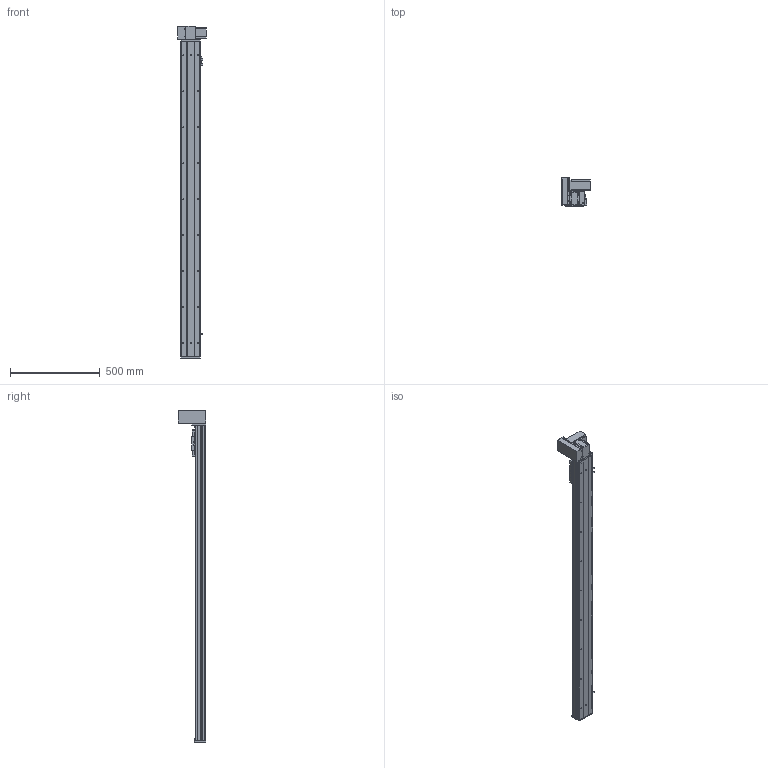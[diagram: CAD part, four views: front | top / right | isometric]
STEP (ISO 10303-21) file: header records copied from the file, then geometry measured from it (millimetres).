
FILE_DESCRIPTION (( 'STEP AP203' ), '1' );
FILE_NAME ('Y10CB-D90-S1500-UL-P400W.STEP', '2020-02-16T07:56:59', ( '微软用户' ), ( '微软中国' ), 'SwSTEP 2.0', 'SolidWorks 2017', '' );
FILE_SCHEMA (( 'CONFIG_CONTROL_DESIGN' ));
Length unit declared in the file: millimetre
Products named in the file (18): 0CB-雄赽釱---; Y10CB-D90-S1500-UL-P400W; Y10C---詩湍揤啣; 0Cb-俋欶---; 10CB9-掛极; Y10B-々湍喘謫眊楊擘啣--; 10CB-耜裔; 0B-萇儂楊擘啣; Y135C-陔俋离換覜結え-; san松下电机400不带刹车----; Y100-135俋离換覜ん--; 0B-源倛裔啣; Y10B-耜蚾蟀諉啣----; 0B-埴倛裔啣; 00B-俋欶BM--; 10CB-詩湍-; Y10B--々湍喘謫眊--666; Y10CB- 掛极耜裔啣-毀---
Assembly tree (21 placements, depth 2):
  Y10CB-D90-S1500-UL-P400W
    0CB-雄赽釱---
    0Cb-俋欶---
    Y10B-々湍喘謫眊楊擘啣--
    0B-萇儂楊擘啣
    san松下电机400不带刹车----
    0B-源倛裔啣
    0B-埴倛裔啣
    10CB-詩湍-
    Y10CB- 掛极耜裔啣-毀---  x2
    Y10C---詩湍揤啣  x2
    10CB9-掛极
    10CB-耜裔
    Y135C-陔俋离換覜結え-
    Y100-135俋离換覜ん--  x3
    Y10B-耜蚾蟀諉啣----
    00B-俋欶BM--
    Y10B--々湍喘謫眊--666
Bounding box: 157 x 155.5 x 1846 mm (x, y, z)
Volume: 4008554.8 mm3; surface area: 1851633.2 mm2
Topology: 21 solids, 21 shells, 1014 faces, 2723 edges, 1778 vertices
Faces by surface type: cylinder 509, plane 481, cone 24
Entity records: 31912 total; most frequent: CARTESIAN_POINT 5765, DIRECTION 5134, ORIENTED_EDGE 4916, EDGE_CURVE 2458, AXIS2_PLACEMENT_3D 1837, VERTEX_POINT 1604, LINE 1460, VECTOR 1460
